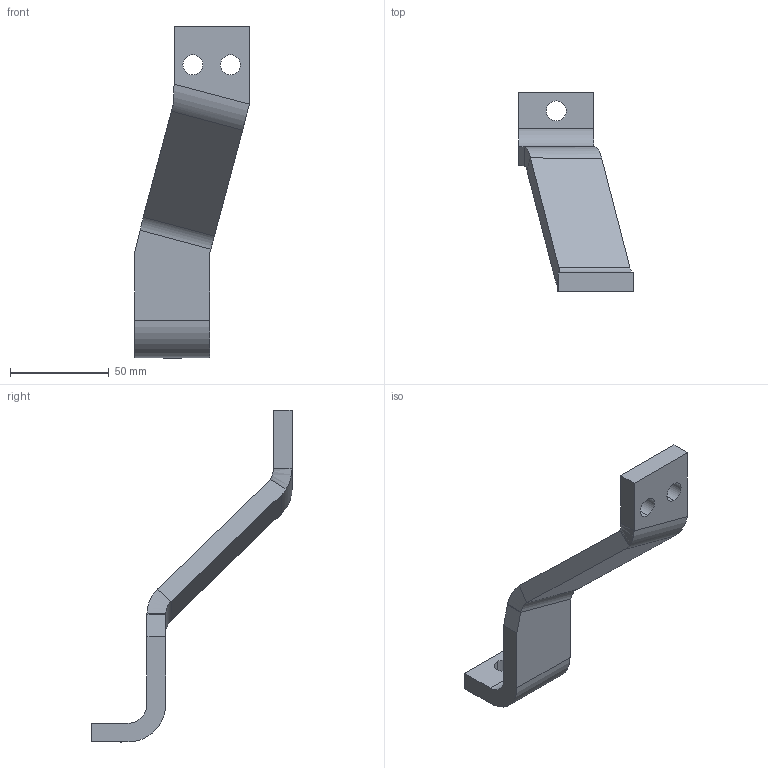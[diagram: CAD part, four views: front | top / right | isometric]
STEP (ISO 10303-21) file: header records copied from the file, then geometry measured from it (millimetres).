
FILE_DESCRIPTION (( 'STEP AP214' ), '1' );
FILE_NAME ('1106349.STEP', '2020-02-04T18:49:04', ( '' ), ( '' ), 'SwSTEP 2.0', 'SolidWorks 2014', '' );
FILE_SCHEMA (( 'AUTOMOTIVE_DESIGN' ));
Length unit declared in the file: inch
Products named in the file (1): 1106349
Bounding box: 58.1 x 101.52 x 168.35 mm (x, y, z)
Volume: 75991 mm3; surface area: 21746.3 mm2
Topology: 1 solids, 1 shells, 33 faces, 87 edges, 56 vertices
Faces by surface type: plane 17, cylinder 12, bspline 4
Entity records: 1548 total; most frequent: CARTESIAN_POINT 255, ORIENTED_EDGE 174, DIRECTION 163, EDGE_CURVE 87, VERTEX_POINT 56, LINE 55, VECTOR 55, AXIS2_PLACEMENT_3D 54
